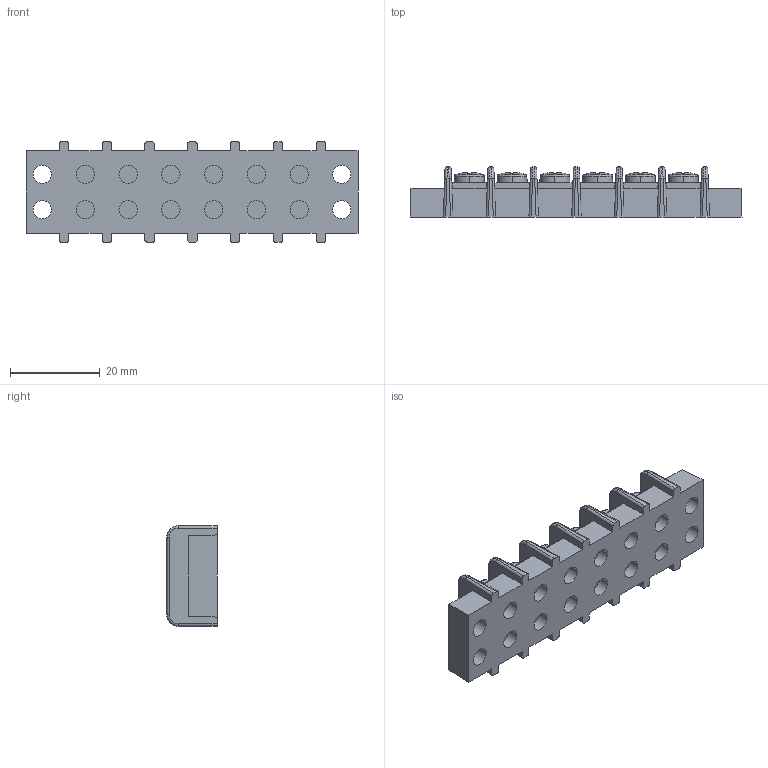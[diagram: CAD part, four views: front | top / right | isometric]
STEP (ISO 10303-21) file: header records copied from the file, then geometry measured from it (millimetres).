
FILE_DESCRIPTION((''),'2;1');
FILE_NAME('387700106','2014-12-25T',('me'),(''),'PRO/ENGINEER BY PARAMETRIC TECHNOLOGY CORPORATION, 2011490','PRO/ENGINEER BY PARAMETRIC TECHNOLOGY CORPORATION, 2011490','');
FILE_SCHEMA(('CONFIG_CONTROL_DESIGN'));
Length unit declared in the file: inch
Products named in the file (1): 387700106
Bounding box: 73.91 x 11.18 x 22.35 mm (x, y, z)
Volume: 10706.3 mm3; surface area: 7552.5 mm2
Topology: 1 solids, 1 shells, 520 faces, 1436 edges, 976 vertices
Faces by surface type: plane 332, cylinder 112, bspline 28, torus 24, sphere 24
Entity records: 18273 total; most frequent: CARTESIAN_POINT 5037, ORIENTED_EDGE 2816, DIRECTION 2650, EDGE_CURVE 1408, VECTOR 944, LINE 944, VERTEX_POINT 920, AXIS2_PLACEMENT_3D 853
